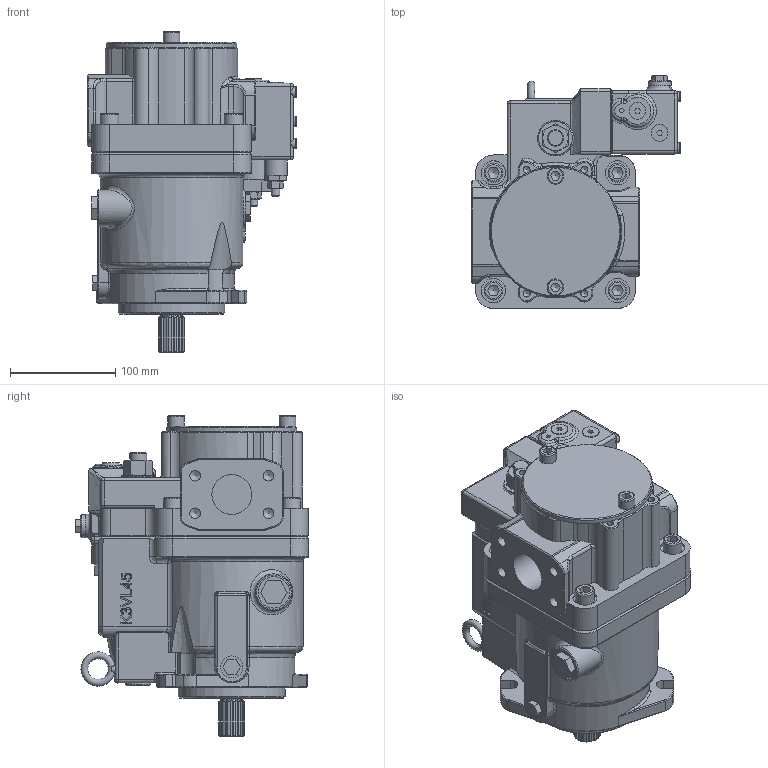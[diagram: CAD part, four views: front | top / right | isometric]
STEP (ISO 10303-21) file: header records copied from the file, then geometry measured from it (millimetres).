
FILE_DESCRIPTION((''),'2;1');
FILE_NAME('J:\Inventor\K3V, M2X\MODEL LIBRARY\K3VL45B 1NRSS L0.stp','2008-04-14T15:45:45',('mnorman'),(''),'Autodesk Inventor 2008','Autodesk Inventor 2008','');
FILE_SCHEMA(('AUTOMOTIVE_DESIGN { 1 0 10303 214 1 1 1 1 }'));
Length unit declared in the file: millimetre
Products named in the file (1): Part130
Bounding box: 199 x 221.7 x 305 mm (x, y, z)
Volume: 4911916.2 mm3; surface area: 341624.4 mm2
Topology: 1 solids, 20 shells, 1194 faces, 2895 edges, 1776 vertices
Faces by surface type: plane 512, cylinder 265, bspline 230, cone 138, torus 40, sphere 9
Full cylindrical faces by diameter (mm): 6 x4, 6.5 x4, 8 x5, 10 x4, 11 x4, 12 x4, 16 x6, 18 x4, 21 x1, 21.3 x1, 22 x2, 24 x1, 25 x1, 30 x4, 32 x1, 35.5 x1, 36 x1, 38 x1, 46 x1, 75 x1, 82.55 x1, 90 x2, 101.6 x1, 105 x1, 124 x1
Entity records: 48082 total; most frequent: CARTESIAN_POINT 21736, ORIENTED_EDGE 5234, DIRECTION 4973, EDGE_CURVE 2617, AXIS2_PLACEMENT_3D 1871, VERTEX_POINT 1683, EDGE_LOOP 1428, VECTOR 1231
